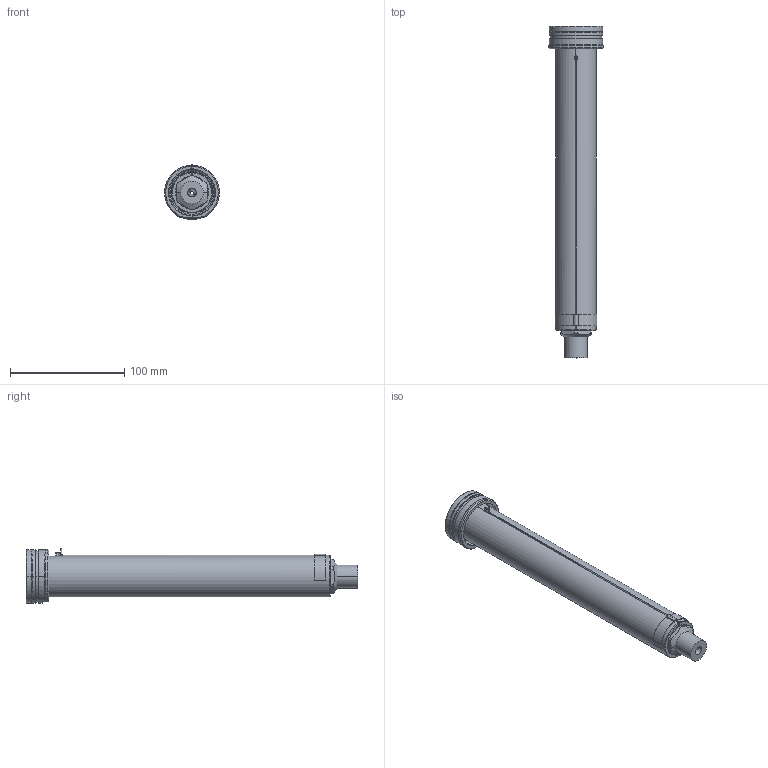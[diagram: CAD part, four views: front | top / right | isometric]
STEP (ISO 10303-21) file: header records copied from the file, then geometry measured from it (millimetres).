
FILE_DESCRIPTION((''),'2;1');
FILE_NAME('EO16_SG_ESG_260_SW','2024-02-19T12:36:20',('sundharh'),(''),'CREO PARAMETRIC BY PTC INC, 2023154','CREO PARAMETRIC BY PTC INC, 2023154','');
FILE_SCHEMA(('CONFIG_CONTROL_DESIGN'));
Length unit declared in the file: millimetre
Products named in the file (1): EO16_SG_ESG_260_SW
Bounding box: 47.97 x 290 x 48 mm (x, y, z)
Volume: 230386.4 mm3; surface area: 53819.1 mm2
Topology: 1 solids, 1 shells, 164 faces, 403 edges, 245 vertices
Faces by surface type: cylinder 64, plane 45, cone 31, torus 14, bspline 7, sphere 3
Entity records: 5647 total; most frequent: CARTESIAN_POINT 1716, DIRECTION 868, ORIENTED_EDGE 790, EDGE_CURVE 395, AXIS2_PLACEMENT_3D 358, VERTEX_POINT 245, CIRCLE 201, EDGE_LOOP 180
